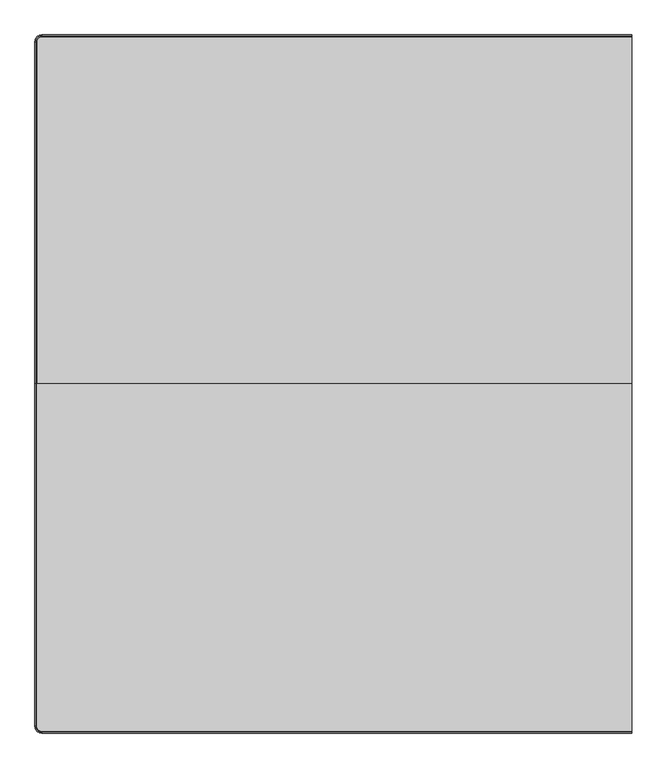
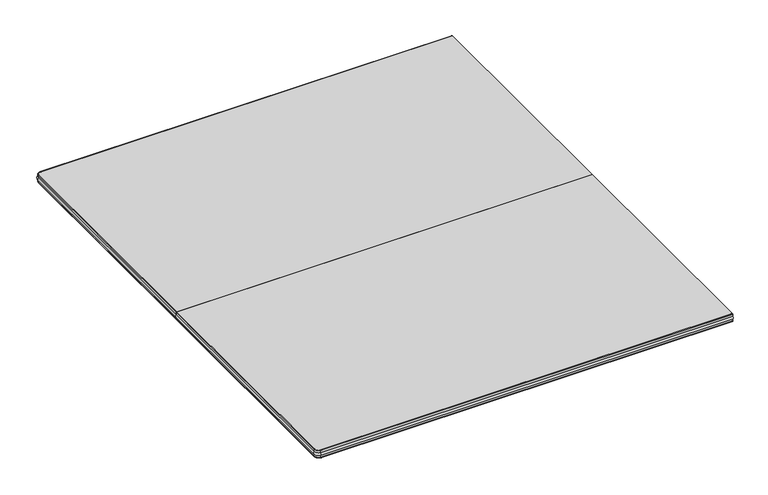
"""IFC4 building model written with IfcOpenShell, lengths in millimetres: furniture geometry, Furniture_Wilkhahn_620-46_Logon Table-Rectangle : Logon 620/46_2650L x 1550W x 730H."""

from ifc_helpers import new_model, si_unit, point, frame, origin, place, context, project, spatial, circle_curve, ellipse_curve, trimmed, source, transform, mapped, element, save
from ifc_brep_helpers import plane_surface, cylinder_surface, revolved_surface, advanced_brep


def furniture_1809fa30(model_context):
    return source(origin(), model_context, "Body", "AdvancedBrep", [
        advanced_brep(
        [(-1321.0, 25.9511544, 730.0), (-1321.0, -734.0488456, 730.0), (-1310.0, -745.0488456, 730.0), (0.0, -745.0488456, 730.0), (0.0, 25.9511544, 730.0), (0.0, -745.0488456, 703.9999792), (-1310.0, -745.0488456, 703.9999792), (-1321.0, -734.0488456, 703.9999792), (-1321.0, 25.9511544, 703.9999792), (0.0, 25.9511544, 703.9999792), (-1322.5, 25.9511544, 705.4999792), (-1322.5, 25.9511544, 712.6698626), (-1322.5, 25.9511544, 721.3301166), (-1322.5, 25.9511544, 728.5), (0.0, -746.5488456, 728.5), (0.0, -746.5488456, 721.3301166), (0.0, -746.5488456, 712.6698626), (0.0, -746.5488456, 705.4999792), (-1310.0, -746.5488456, 705.4999792), (-1310.0, -746.5488456, 712.6698626), (-1310.0, -746.5488456, 721.3301166), (-1310.0, -746.5488456, 728.5), (-1322.5, -734.0488456, 705.4999792), (-1322.5, -734.0488456, 712.6698626), (-1322.5, -734.0488456, 721.3301166), (-1322.5, -734.0488456, 728.5)],
        [
            (0, 1),
            (1, 2, circle_curve(frame((-1310.0, -734.0488456, 730.0), z_axis=(0.0, 0.0, 1.0), x_axis=(0.0, -1.0, 0.0)), 11.0)),
            (2, 3),
            (3, 4),
            (4, 0),
            (5, 6),
            (6, 7, circle_curve(frame((-1310.0, -734.0488456, 703.9999792), z_axis=(0.0, 0.0, -1.0), x_axis=(0.0, -1.0, 0.0)), 11.0)),
            (7, 8),
            (8, 9),
            (9, 5),
            (4, 9),
            (8, 10, circle_curve(frame((-1321.0, 25.9511544, 705.4999792), z_axis=(0.0, 1.0, 0.0), x_axis=(-1.0, 0.0, 0.0)), 1.5)),
            (10, 11),
            (11, 12, circle_curve(frame((-1320.0, 25.9511544, 716.9999896), z_axis=(0.0, 1.0, 0.0), x_axis=(-1.0, 0.0, 0.0)), 5.0)),
            (12, 13),
            (13, 0, circle_curve(frame((-1321.0, 25.9511544, 728.5), z_axis=(0.0, 1.0, 0.0), x_axis=(-1.0, 0.0, 0.0)), 1.5)),
            (3, 14, circle_curve(frame((0.0, -745.0488456, 728.5), z_axis=(1.0, 0.0, 0.0), x_axis=(0.0, -1.0, 0.0)), 1.5)),
            (14, 15),
            (15, 16, circle_curve(frame((0.0, -744.0488456, 716.9999896), z_axis=(1.0, 0.0, 0.0), x_axis=(0.0, -1.0, 0.0)), 5.0)),
            (16, 17),
            (17, 5, circle_curve(frame((0.0, -745.0488456, 705.4999792), z_axis=(1.0, 0.0, 0.0), x_axis=(0.0, -1.0, 0.0)), 1.5)),
            (17, 18),
            (18, 6, circle_curve(frame((-1310.0, -745.0488456, 705.4999792), z_axis=(1.0, 0.0, 0.0), x_axis=(0.0, -1.0, 0.0)), 1.5)),
            (16, 19),
            (19, 18),
            (15, 20),
            (20, 19, circle_curve(frame((-1310.0, -744.0488456, 716.9999896), z_axis=(1.0, 0.0, 0.0), x_axis=(0.0, -1.0, 0.0)), 5.0)),
            (14, 21),
            (21, 20),
            (2, 21, circle_curve(frame((-1310.0, -745.0488456, 728.5), z_axis=(1.0, 0.0, 0.0), x_axis=(0.0, -1.0, 0.0)), 1.5)),
            (18, 22, circle_curve(frame((-1310.0, -734.0488456, 705.4999792), z_axis=(0.0, 0.0, -1.0), x_axis=(0.0, -1.0, 0.0)), 12.5)),
            (22, 7, circle_curve(frame((-1321.0, -734.0488456, 705.4999792), z_axis=(0.0, -1.0, 0.0), x_axis=(-1.0, 0.0, 0.0)), 1.5)),
            (19, 23, circle_curve(frame((-1310.0, -734.0488456, 712.6698626), z_axis=(0.0, 0.0, -1.0), x_axis=(0.0, -1.0, 0.0)), 12.5)),
            (23, 22),
            (20, 24, circle_curve(frame((-1310.0, -734.0488456, 721.3301166), z_axis=(0.0, 0.0, -1.0), x_axis=(0.0, -1.0, 0.0)), 12.5)),
            (24, 23, circle_curve(frame((-1320.0, -734.0488456, 716.9999896), z_axis=(0.0, -1.0, 0.0), x_axis=(-1.0, 0.0, 0.0)), 5.0)),
            (21, 25, circle_curve(frame((-1310.0, -734.0488456, 728.5), z_axis=(0.0, 0.0, -1.0), x_axis=(0.0, -1.0, 0.0)), 12.5)),
            (25, 24),
            (1, 25, circle_curve(frame((-1321.0, -734.0488456, 728.5), z_axis=(0.0, -1.0, 0.0), x_axis=(-1.0, 0.0, 0.0)), 1.5)),
            (22, 10),
            (23, 11),
            (24, 12),
            (25, 13),
        ],
        [
            plane_surface(frame((-1300.0, -734.0488456, 730.0), z_axis=(0.0, 0.0, 1.0), x_axis=(0.0, 1.0, 0.0))),
            plane_surface(frame((-1300.0, -734.0488456, 703.9999792), z_axis=(0.0, 0.0, -1.0), x_axis=(0.0, -1.0, 0.0))),
            plane_surface(frame((0.0, 25.9511544, 730.0), z_axis=(0.0, 1.0, 0.0), x_axis=(0.0, 0.0, -1.0))),
            plane_surface(frame((0.0, -744.0488456, 730.0), z_axis=(1.0, 0.0, 0.0), x_axis=(0.0, 0.0, -1.0))),
            cylinder_surface(frame((0.0, -745.0488456, 705.4999792), z_axis=(1.0, 0.0, 0.0), x_axis=(0.0, -1.0, 0.0)), 1.5),
            plane_surface(frame((0.0, -746.5488456, 712.6698626), z_axis=(0.0, -1.0, 0.0), x_axis=(-1.0, 0.0, 0.0))),
            cylinder_surface(frame((0.0, -744.0488456, 716.9999896), z_axis=(1.0, 0.0, 0.0), x_axis=(0.0, -1.0, 0.0)), 5.0),
            plane_surface(frame((0.0, -746.5488456, 728.5), z_axis=(0.0, -1.0, 0.0), x_axis=(-1.0, 0.0, 0.0))),
            cylinder_surface(frame((0.0, -745.0488456, 728.5), z_axis=(1.0, 0.0, 0.0), x_axis=(0.0, -1.0, 0.0)), 1.5),
            revolved_surface(trimmed(ellipse_curve(frame((-1310.0, -745.0488456, 705.4999792), z_axis=(1.0, 0.0, 0.0), x_axis=(0.0, -1.0, 0.0)), 1.5, 1.5), [point((-1310.0, -746.5488456, 705.4999792))], [point((-1310.0, -745.0488456, 703.9999792))], True, "CARTESIAN"), (-1310.0, -734.0488456, 730.0), (0.0, 0.0, -1.0)),
            cylinder_surface(frame((-1310.0, -734.0488456, 730.0), z_axis=(0.0, 0.0, -1.0), x_axis=(0.0, -1.0, 0.0)), 12.5),
            revolved_surface(trimmed(ellipse_curve(frame((-1310.0, -744.0488456, 716.9999896), z_axis=(1.0, 0.0, 0.0), x_axis=(0.0, -1.0, 0.0)), 5.0, 5.0), [point((-1310.0, -746.5488456, 721.3301166))], [point((-1310.0, -746.5488456, 712.6698626))], True, "CARTESIAN"), (-1310.0, -734.0488456, 730.0), (0.0, 0.0, -1.0)),
            revolved_surface(trimmed(ellipse_curve(frame((-1310.0, -745.0488456, 728.5), z_axis=(1.0, 0.0, 0.0), x_axis=(0.0, -1.0, 0.0)), 1.5, 1.5), [point((-1310.0, -745.0488456, 730.0))], [point((-1310.0, -746.5488456, 728.5))], True, "CARTESIAN"), (-1310.0, -734.0488456, 730.0), (0.0, 0.0, -1.0)),
            cylinder_surface(frame((-1321.0, -734.0488456, 705.4999792), z_axis=(0.0, -1.0, 0.0), x_axis=(-1.0, 0.0, 0.0)), 1.5),
            plane_surface(frame((-1322.5, -734.0488456, 712.6698626), z_axis=(-1.0, 0.0, 0.0), x_axis=(0.0, 1.0, 0.0))),
            cylinder_surface(frame((-1320.0, -734.0488456, 716.9999896), z_axis=(0.0, -1.0, 0.0), x_axis=(-1.0, 0.0, 0.0)), 5.0),
            plane_surface(frame((-1322.5, -734.0488456, 728.5), z_axis=(-1.0, 0.0, 0.0), x_axis=(0.0, 1.0, 0.0))),
            cylinder_surface(frame((-1321.0, -734.0488456, 728.5), z_axis=(0.0, -1.0, 0.0), x_axis=(-1.0, 0.0, 0.0)), 1.5),
        ],
        [
            (0, [[1, 2, 3, 4, 5]]),
            (1, [[6, 7, 8, 9, 10]]),
            (2, [[-5, 11, -9, 12, 13, 14, 15, 16]]),
            (3, [[-4, 17, 18, 19, 20, 21, -10, -11]]),
            (4, [[-21, 22, 23, -6]]),
            (5, [[-20, 24, 25, -22]]),
            (6, [[-19, 26, 27, -24]]),
            (7, [[-18, 28, 29, -26]]),
            (8, [[-17, -3, 30, -28]]),
            (9, [[-7, -23, 31, 32]]),
            (10, [[-25, 33, 34, -31]]),
            (11, [[-27, 35, 36, -33]]),
            (10, [[-29, 37, 38, -35]]),
            (12, [[-30, -2, 39, -37]]),
            (13, [[-12, -8, -32, 40]]),
            (14, [[-13, -40, -34, 41]]),
            (15, [[-14, -41, -36, 42]]),
            (16, [[-15, -42, -38, 43]]),
            (17, [[-16, -43, -39, -1]]),
        ],
    ),
        advanced_brep(
        [(0.0, 798.4511544, 705.4999792), (0.0, 796.9511544, 703.9999792), (-1310.0, 796.9511544, 703.9999792), (-1310.0, 798.4511544, 705.4999792), (0.0, 798.4511544, 712.6698626), (-1310.0, 798.4511544, 712.6698626), (0.0, 798.4511544, 721.3301166), (-1310.0, 798.4511544, 721.3301166), (0.0, 798.4511544, 728.5), (-1310.0, 798.4511544, 728.5), (0.0, 796.9511544, 730.0), (-1310.0, 796.9511544, 730.0), (-1321.0, 785.9511544, 703.9999792), (-1322.5, 785.9511544, 705.4999792), (-1322.5, 785.9511544, 712.6698626), (-1322.5, 785.9511544, 721.3301166), (-1322.5, 785.9511544, 728.5), (-1321.0, 785.9511544, 730.0), (-1321.0, 25.9511544, 703.9999792), (-1322.5, 25.9511544, 705.4999792), (-1322.5, 25.9511544, 712.6698626), (-1322.5, 25.9511544, 721.3301166), (-1322.5, 25.9511544, 728.5), (-1321.0, 25.9511544, 730.0), (0.0, 25.9511544, 730.0), (0.0, 25.9511544, 703.9999792)],
        [
            (0, 1, circle_curve(frame((0.0, 796.9511544, 705.4999792), z_axis=(-1.0, 0.0, 0.0), x_axis=(0.0, -1.0, 0.0)), 1.5)),
            (1, 2),
            (2, 3, circle_curve(frame((-1310.0, 796.9511544, 705.4999792), z_axis=(1.0, 0.0, 0.0), x_axis=(0.0, -1.0, 0.0)), 1.5)),
            (3, 0),
            (4, 0),
            (3, 5),
            (5, 4),
            (6, 4, circle_curve(frame((0.0, 795.9511544, 716.9999896), z_axis=(-1.0, 0.0, 0.0), x_axis=(0.0, -1.0, 0.0)), 5.0)),
            (5, 7, circle_curve(frame((-1310.0, 795.9511544, 716.9999896), z_axis=(1.0, 0.0, 0.0), x_axis=(0.0, -1.0, 0.0)), 5.0)),
            (7, 6),
            (8, 6),
            (7, 9),
            (9, 8),
            (10, 8, circle_curve(frame((0.0, 796.9511544, 728.5), z_axis=(-1.0, 0.0, 0.0), x_axis=(0.0, -1.0, 0.0)), 1.5)),
            (9, 11, circle_curve(frame((-1310.0, 796.9511544, 728.5), z_axis=(1.0, 0.0, 0.0), x_axis=(0.0, -1.0, 0.0)), 1.5)),
            (11, 10),
            (2, 12, circle_curve(frame((-1310.0, 785.9511544, 703.9999792), z_axis=(0.0, 0.0, 1.0), x_axis=(0.0, 1.0, 0.0)), 11.0)),
            (12, 13, circle_curve(frame((-1321.0, 785.9511544, 705.4999792), z_axis=(0.0, 1.0, 0.0), x_axis=(1.0, 0.0, 0.0)), 1.5)),
            (13, 3, circle_curve(frame((-1310.0, 785.9511544, 705.4999792), z_axis=(0.0, 0.0, -1.0), x_axis=(0.0, 1.0, 0.0)), 12.5)),
            (13, 14),
            (14, 5, circle_curve(frame((-1310.0, 785.9511544, 712.6698626), z_axis=(0.0, 0.0, -1.0), x_axis=(0.0, 1.0, 0.0)), 12.5)),
            (14, 15, circle_curve(frame((-1320.0, 785.9511544, 716.9999896), z_axis=(0.0, 1.0, 0.0), x_axis=(1.0, 0.0, 0.0)), 5.0)),
            (15, 7, circle_curve(frame((-1310.0, 785.9511544, 721.3301166), z_axis=(0.0, 0.0, -1.0), x_axis=(0.0, 1.0, 0.0)), 12.5)),
            (15, 16),
            (16, 9, circle_curve(frame((-1310.0, 785.9511544, 728.5), z_axis=(0.0, 0.0, -1.0), x_axis=(0.0, 1.0, 0.0)), 12.5)),
            (16, 17, circle_curve(frame((-1321.0, 785.9511544, 728.5), z_axis=(0.0, 1.0, 0.0), x_axis=(1.0, 0.0, 0.0)), 1.5)),
            (17, 11, circle_curve(frame((-1310.0, 785.9511544, 730.0), z_axis=(0.0, 0.0, -1.0), x_axis=(0.0, 1.0, 0.0)), 11.0)),
            (18, 19, circle_curve(frame((-1321.0, 25.9511544, 705.4999792), z_axis=(0.0, 1.0, 0.0), x_axis=(1.0, 0.0, 0.0)), 1.5)),
            (19, 13),
            (12, 18),
            (19, 20),
            (20, 14),
            (20, 21, circle_curve(frame((-1320.0, 25.9511544, 716.9999896), z_axis=(0.0, 1.0, 0.0), x_axis=(1.0, 0.0, 0.0)), 5.0)),
            (21, 15),
            (21, 22),
            (22, 16),
            (22, 23, circle_curve(frame((-1321.0, 25.9511544, 728.5), z_axis=(0.0, 1.0, 0.0), x_axis=(1.0, 0.0, 0.0)), 1.5)),
            (23, 17),
            (10, 24),
            (24, 25),
            (25, 1),
            (25, 18),
            (23, 24),
        ],
        [
            cylinder_surface(frame((0.0, 796.9511544, 705.4999792), z_axis=(1.0, 0.0, 0.0), x_axis=(0.0, -1.0, 0.0)), 1.5),
            plane_surface(frame((0.0, 798.4511544, 705.4999792), z_axis=(0.0, 1.0, 0.0), x_axis=(-1.0, 0.0, 0.0))),
            cylinder_surface(frame((0.0, 795.9511544, 716.9999896), z_axis=(1.0, 0.0, 0.0), x_axis=(0.0, -1.0, 0.0)), 5.0),
            plane_surface(frame((0.0, 798.4511544, 721.3301166), z_axis=(0.0, 1.0, 0.0), x_axis=(-1.0, 0.0, 0.0))),
            cylinder_surface(frame((0.0, 796.9511544, 728.5), z_axis=(1.0, 0.0, 0.0), x_axis=(0.0, -1.0, 0.0)), 1.5),
            revolved_surface(trimmed(ellipse_curve(frame((-1310.0, 796.9511544, 705.4999792), z_axis=(1.0, 0.0, 0.0), x_axis=(0.0, -1.0, 0.0)), 1.5, 1.5), [point((-1310.0, 796.9511544, 703.9999792))], [point((-1310.0, 798.4511544, 705.4999792))], True, "CARTESIAN"), (-1310.0, 785.9511544, 730.0), (0.0, 0.0, 1.0)),
            cylinder_surface(frame((-1310.0, 785.9511544, 730.0), z_axis=(0.0, 0.0, 1.0), x_axis=(0.0, 1.0, 0.0)), 12.5),
            revolved_surface(trimmed(ellipse_curve(frame((-1310.0, 795.9511544, 716.9999896), z_axis=(1.0, 0.0, 0.0), x_axis=(0.0, -1.0, 0.0)), 5.0, 5.0), [point((-1310.0, 798.4511544, 712.6698626))], [point((-1310.0, 798.4511544, 721.3301166))], True, "CARTESIAN"), (-1310.0, 785.9511544, 730.0), (0.0, 0.0, 1.0)),
            revolved_surface(trimmed(ellipse_curve(frame((-1310.0, 796.9511544, 728.5), z_axis=(1.0, 0.0, 0.0), x_axis=(0.0, -1.0, 0.0)), 1.5, 1.5), [point((-1310.0, 798.4511544, 728.5))], [point((-1310.0, 796.9511544, 730.0))], True, "CARTESIAN"), (-1310.0, 785.9511544, 730.0), (0.0, 0.0, 1.0)),
            cylinder_surface(frame((-1321.0, 785.9511544, 705.4999792), z_axis=(0.0, 1.0, 0.0), x_axis=(1.0, 0.0, 0.0)), 1.5),
            plane_surface(frame((-1322.5, 785.9511544, 705.4999792), z_axis=(-1.0, 0.0, 0.0), x_axis=(0.0, -1.0, 0.0))),
            cylinder_surface(frame((-1320.0, 785.9511544, 716.9999896), z_axis=(0.0, 1.0, 0.0), x_axis=(1.0, 0.0, 0.0)), 5.0),
            plane_surface(frame((-1322.5, 785.9511544, 721.3301166), z_axis=(-1.0, 0.0, 0.0), x_axis=(0.0, -1.0, 0.0))),
            cylinder_surface(frame((-1321.0, 785.9511544, 728.5), z_axis=(0.0, 1.0, 0.0), x_axis=(1.0, 0.0, 0.0)), 1.5),
            plane_surface(frame((0.0, 800.9511544, 730.0), z_axis=(1.0, 0.0, 0.0), x_axis=(0.0, 0.0, 1.0))),
            plane_surface(frame((0.0, 795.9511544, 703.9999792), z_axis=(0.0, 0.0, -1.0), x_axis=(-1.0, 0.0, 0.0))),
            plane_surface(frame((0.0, 796.9511544, 730.0), z_axis=(0.0, 0.0, 1.0), x_axis=(-1.0, 0.0, 0.0))),
            plane_surface(frame((-1325.0, 25.9511544, 730.0), z_axis=(0.0, -1.0, 0.0), x_axis=(0.0, 0.0, 1.0))),
        ],
        [
            (0, [[1, 2, 3, 4]]),
            (1, [[5, -4, 6, 7]]),
            (2, [[8, -7, 9, 10]]),
            (3, [[11, -10, 12, 13]]),
            (4, [[14, -13, 15, 16]]),
            (5, [[17, 18, 19, -3]]),
            (6, [[-6, -19, 20, 21]]),
            (7, [[-9, -21, 22, 23]]),
            (6, [[-12, -23, 24, 25]]),
            (8, [[-15, -25, 26, 27]]),
            (9, [[28, 29, -18, 30]]),
            (10, [[31, 32, -20, -29]]),
            (11, [[33, 34, -22, -32]]),
            (12, [[35, 36, -24, -34]]),
            (13, [[37, 38, -26, -36]]),
            (14, [[-1, -5, -8, -11, -14, 39, 40, 41]]),
            (15, [[-41, 42, -30, -17, -2]]),
            (16, [[43, -39, -16, -27, -38]]),
            (17, [[-37, -35, -33, -31, -28, -42, -40, -43]]),
        ],
    ),
    ])


if __name__ == "__main__":
    model = new_model("IFC4")
    model_context = context("Model", 3, world=origin())
    ifc_project = project(units=[si_unit("LENGTHUNIT", "METRE", prefix="MILLI")], contexts=[model_context])
    site = spatial("IfcSite", under=ifc_project)
    building = spatial("IfcBuilding", under=site)
    placement = place(None, origin())
    furniture_shape = furniture_1809fa30(model_context)
    element("IfcFurniture", 1, ObjectType="Furniture_Wilkhahn_620-46_Logon Table-Rectangle : Logon 620/46_2650L x 1550W x 730H", at=placement, inside=building, context=model_context, shape_type="MappedRepresentation", body=[
        mapped(furniture_shape, transform((0.0, 0.0, 0.0), x_axis=(1.0, 0.0, 0.0), y_axis=(0.0, 1.0, 0.0), z_axis=(0.0, 0.0, 1.0))),
    ])
    save(model, "model.ifc")
